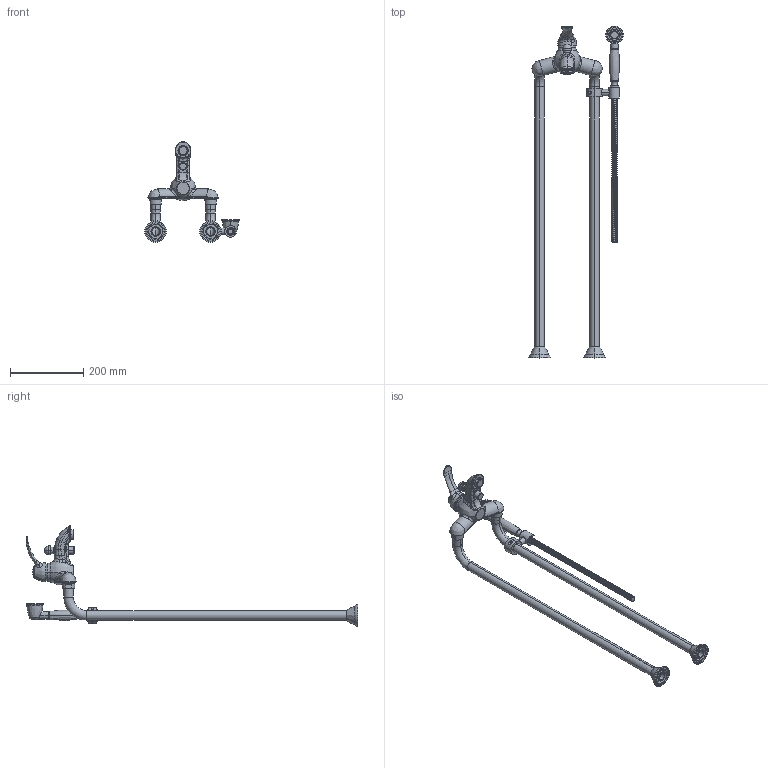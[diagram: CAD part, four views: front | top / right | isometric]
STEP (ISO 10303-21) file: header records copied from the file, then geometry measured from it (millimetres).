
FILE_DESCRIPTION((''),'2;1');
FILE_NAME('F3304_4_FILE_3D','2013-08-06T',('ivanv'),(''),'PRO/ENGINEER BY PARAMETRIC TECHNOLOGY CORPORATION, 2012130','PRO/ENGINEER BY PARAMETRIC TECHNOLOGY CORPORATION, 2012130','');
FILE_SCHEMA(('CONFIG_CONTROL_DESIGN'));
Length unit declared in the file: millimetre
Products named in the file (1): F3304_4_FILE_3D
Bounding box: 257.74 x 906.5 x 274.3 mm (x, y, z)
Volume: 940356.8 mm3; surface area: 409528.6 mm2
Topology: 3 solids, 5 shells, 971 faces, 2274 edges, 1375 vertices
Faces by surface type: cylinder 337, bspline 272, plane 171, torus 97, cone 82, sphere 12
Entity records: 86469 total; most frequent: CARTESIAN_POINT 66345, ORIENTED_EDGE 4540, DIRECTION 3567, EDGE_CURVE 2270, AXIS2_PLACEMENT_3D 1462, VERTEX_POINT 1375, EDGE_LOOP 1043, FACE_OUTER_BOUND 971
